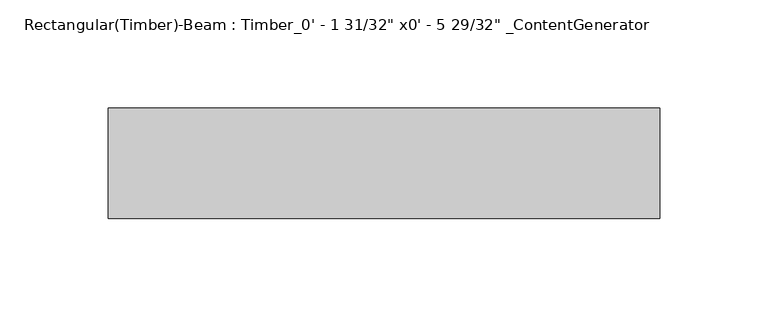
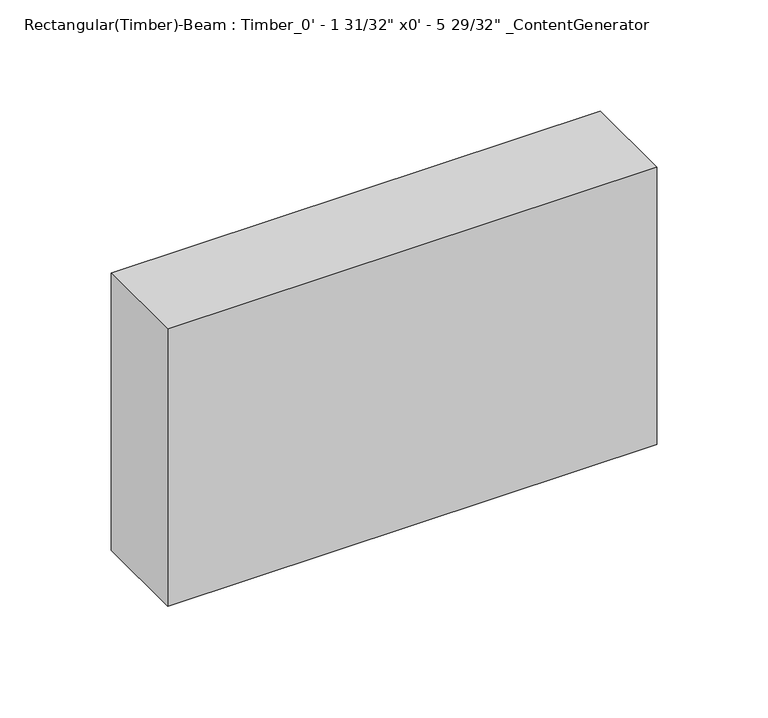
"""IFC4 building model written with IfcOpenShell, lengths in millimetres: beam geometry."""

from ifc_helpers import new_model, si_unit, frame, origin, place, context, project, spatial, polyline, outline, extrude, source, transform, mapped, element, save


def beam_2d88acf2(model_context):
    return source(origin(), model_context, "Body", "SweptSolid", [
        extrude(outline(polyline([(139.6999994, 25.4), (139.6999994, -25.4), (-114.3, -25.4), (-114.3, 25.4), (139.6999994, 25.4)])), frame((0.0, 0.0, -76.2), z_axis=(0.0, 0.0, 1.0), x_axis=(1.0, 0.0, 0.0)), (0.0, 0.0, 1.0), 152.4),
    ])


if __name__ == "__main__":
    model = new_model("IFC4")
    model_context = context("Model", 3, world=origin())
    ifc_project = project(units=[si_unit("LENGTHUNIT", "METRE", prefix="MILLI")], contexts=[model_context])
    site = spatial("IfcSite", under=ifc_project)
    building = spatial("IfcBuilding", under=site)
    placement = place(None, origin())
    beam_shape = beam_2d88acf2(model_context)
    element("IfcBeam", 1, ObjectType="Rectangular(Timber)-Beam : Timber_0' - 1 31/32\" x0' - 5 29/32\" _ContentGenerator", at=placement, inside=building, context=model_context, shape_type="MappedRepresentation", body=[
        mapped(beam_shape, transform((0.0, 0.0, 0.0), x_axis=(1.0, 0.0, 0.0), y_axis=(0.0, 1.0, 0.0), z_axis=(0.0, 0.0, 1.0))),
    ])
    save(model, "model.ifc")
